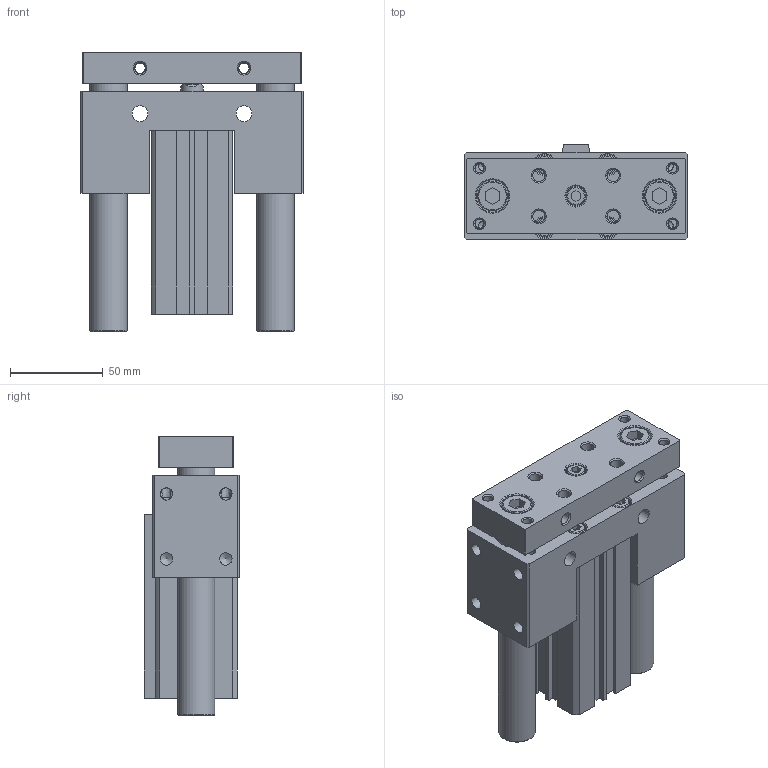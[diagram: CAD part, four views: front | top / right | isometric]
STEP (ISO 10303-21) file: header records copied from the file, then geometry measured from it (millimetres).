
FILE_DESCRIPTION((''),'2;1');
FILE_NAME('I:\3D電子目錄\氣缸\JCB\JCB\JCB32\JCB32x75.stp','2007-08-21T20:26:34',('Administrator'),(''),'Autodesk Inventor 11','Autodesk Inventor 11','');
FILE_SCHEMA(('AUTOMOTIVE_DESIGN { 1 0 10303 214 1 1 1 1 }'));
Length unit declared in the file: millimetre
Products named in the file (1): JCB32
Bounding box: 120 x 51.5 x 150.4 mm (x, y, z)
Volume: 504532.9 mm3; surface area: 117618 mm2
Topology: 3 solids, 3 shells, 322 faces, 757 edges, 491 vertices
Faces by surface type: plane 174, cylinder 54, bspline 45, cone 41, torus 8
Full cylindrical faces by diameter (mm): 2.2 x2, 5.1 x4, 6 x2, 6.647 x4, 8 x8, 10 x5, 11 x5, 12 x1, 13 x1, 16 x2, 17.5 x2, 20 x2, 22 x1, 23 x3, 34 x4, 36 x2
Entity records: 9312 total; most frequent: CARTESIAN_POINT 2546, DIRECTION 1348, ORIENTED_EDGE 1196, EDGE_CURVE 598, EDGE_LOOP 538, AXIS2_PLACEMENT_3D 496, VERTEX_POINT 460, VECTOR 356
